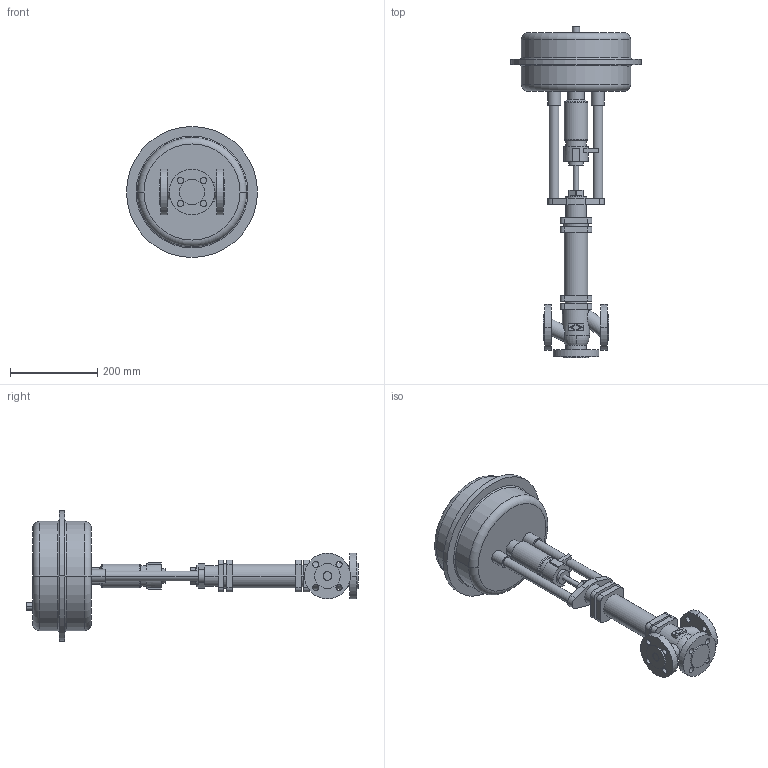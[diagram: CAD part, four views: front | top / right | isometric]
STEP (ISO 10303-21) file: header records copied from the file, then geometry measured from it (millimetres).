
FILE_DESCRIPTION(('OneSpaceDesigner STEP Export'),'2;1');
FILE_NAME('c000000728.stp','2006-09-21T 8:35:43',(''),(''),'OneSpace Designer STEP processor for AP214 (Solid Model)','OneSpace Designer 13.20A 18-Aug-2005 (C) CoCreate Software GmbH','');
FILE_SCHEMA(('AUTOMOTIVE_DESIGN { 1 0 10303 214 1 1 1 1 }'));
Length unit declared in the file: millimetre
Products named in the file (2): 1; 2
Bounding box: 300 x 760.6 x 300 mm (x, y, z)
Volume: 8878216.3 mm3; surface area: 486256.7 mm2
Topology: 2 solids, 2 shells, 236 faces, 579 edges, 382 vertices
Faces by surface type: cylinder 114, plane 100, torus 18, cone 4
Entity records: 6445 total; most frequent: CARTESIAN_POINT 1176, ORIENTED_EDGE 1158, DIRECTION 994, EDGE_CURVE 579, VERTEX_POINT 382, AXIS2_PLACEMENT_3D 356, EDGE_LOOP 295, VECTOR 282
